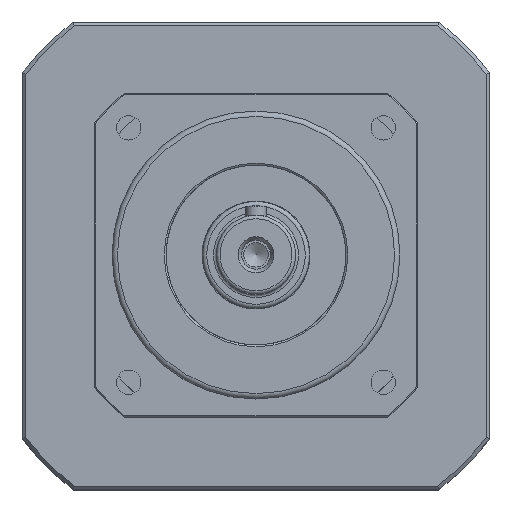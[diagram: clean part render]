
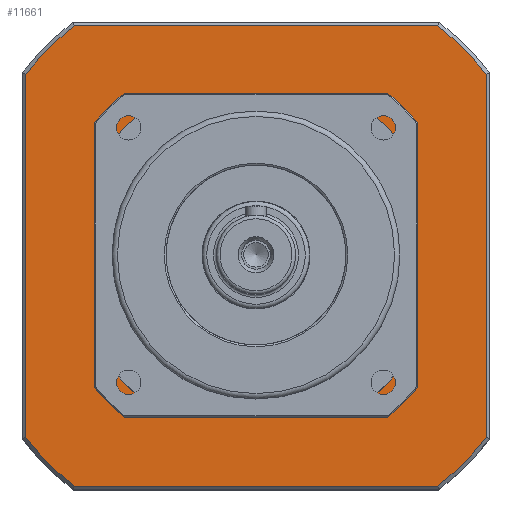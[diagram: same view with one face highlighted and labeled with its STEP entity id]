
A CAD part, top view. The second image highlights one B-rep face of the part: STEP entity #11661.
In plain terms, the highlighted planar face has unit normal (0, 0, 1).
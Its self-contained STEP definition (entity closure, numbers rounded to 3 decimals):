
#11516=CARTESIAN_POINT('',(0.,0.,-134.0));
#11517=DIRECTION('',(0.0,0.0,1.0));
#11518=DIRECTION('',(1.0,0.0,0.0));
#11519=AXIS2_PLACEMENT_3D('',#11516,#11517,#11518);
#11520=PLANE('',#11519);
#11521=CARTESIAN_POINT('',(50.46,-64.,-134.0));
#11522=VERTEX_POINT('',#11521);
#11523=CARTESIAN_POINT('',(64.,-50.46,-134.0));
#11524=VERTEX_POINT('',#11523);
#11525=CARTESIAN_POINT('',(0.,0.,-134.0));
#11526=DIRECTION('',(0.0,0.0,1.0));
#11527=DIRECTION('',(1.0,0.0,0.0));
#11528=AXIS2_PLACEMENT_3D('',#11525,#11526,#11527);
#11529=CIRCLE('',#11528,81.5);
#11530=EDGE_CURVE('',#11522,#11524,#11529,.T.);
#11531=ORIENTED_EDGE('',*,*,#11530,.T.);
#11532=CARTESIAN_POINT('',(64.,50.46,-134.0));
#11533=VERTEX_POINT('',#11532);
#11534=CARTESIAN_POINT('',(64.,-50.46,-134.0));
#11535=DIRECTION('',(0.0,1.0,0.0));
#11536=VECTOR('',#11535,100.921);
#11537=LINE('',#11534,#11536);
#11538=EDGE_CURVE('',#11524,#11533,#11537,.T.);
#11539=ORIENTED_EDGE('',*,*,#11538,.T.);
#11540=CARTESIAN_POINT('',(50.46,64.,-134.0));
#11541=VERTEX_POINT('',#11540);
#11542=CARTESIAN_POINT('',(0.,0.,-134.0));
#11543=DIRECTION('',(0.0,0.0,1.0));
#11544=DIRECTION('',(1.0,0.0,0.0));
#11545=AXIS2_PLACEMENT_3D('',#11542,#11543,#11544);
#11546=CIRCLE('',#11545,81.5);
#11547=EDGE_CURVE('',#11533,#11541,#11546,.T.);
#11548=ORIENTED_EDGE('',*,*,#11547,.T.);
#11549=CARTESIAN_POINT('',(-50.46,64.,-134.0));
#11550=VERTEX_POINT('',#11549);
#11551=CARTESIAN_POINT('',(50.46,64.,-134.0));
#11552=DIRECTION('',(-1.0,0.0,0.0));
#11553=VECTOR('',#11552,100.921);
#11554=LINE('',#11551,#11553);
#11555=EDGE_CURVE('',#11541,#11550,#11554,.T.);
#11556=ORIENTED_EDGE('',*,*,#11555,.T.);
#11557=CARTESIAN_POINT('',(-64.,50.46,-134.0));
#11558=VERTEX_POINT('',#11557);
#11559=CARTESIAN_POINT('',(0.,0.,-134.0));
#11560=DIRECTION('',(0.0,0.0,1.0));
#11561=DIRECTION('',(1.0,0.0,0.0));
#11562=AXIS2_PLACEMENT_3D('',#11559,#11560,#11561);
#11563=CIRCLE('',#11562,81.5);
#11564=EDGE_CURVE('',#11550,#11558,#11563,.T.);
#11565=ORIENTED_EDGE('',*,*,#11564,.T.);
#11566=CARTESIAN_POINT('',(-64.,-50.46,-134.0));
#11567=VERTEX_POINT('',#11566);
#11568=CARTESIAN_POINT('',(-64.,50.46,-134.0));
#11569=DIRECTION('',(0.0,-1.0,0.0));
#11570=VECTOR('',#11569,100.921);
#11571=LINE('',#11568,#11570);
#11572=EDGE_CURVE('',#11558,#11567,#11571,.T.);
#11573=ORIENTED_EDGE('',*,*,#11572,.T.);
#11574=CARTESIAN_POINT('',(-50.46,-64.,-134.0));
#11575=VERTEX_POINT('',#11574);
#11576=CARTESIAN_POINT('',(0.,0.,-134.0));
#11577=DIRECTION('',(0.0,0.0,1.0));
#11578=DIRECTION('',(1.0,0.0,0.0));
#11579=AXIS2_PLACEMENT_3D('',#11576,#11577,#11578);
#11580=CIRCLE('',#11579,81.5);
#11581=EDGE_CURVE('',#11567,#11575,#11580,.T.);
#11582=ORIENTED_EDGE('',*,*,#11581,.T.);
#11583=CARTESIAN_POINT('',(-50.46,-64.,-134.0));
#11584=DIRECTION('',(1.0,0.0,0.0));
#11585=VECTOR('',#11584,100.921);
#11586=LINE('',#11583,#11585);
#11587=EDGE_CURVE('',#11575,#11522,#11586,.T.);
#11588=ORIENTED_EDGE('',*,*,#11587,.T.);
#11589=EDGE_LOOP('',(#11531,#11539,#11548,#11556,#11565,#11573,#11582,#11588));
#11590=FACE_OUTER_BOUND('',#11589,.T.);
#11591=CARTESIAN_POINT('',(-45.,24.,-134.0));
#11592=VERTEX_POINT('',#11591);
#11593=CARTESIAN_POINT('',(-45.,-24.,-134.0));
#11594=VERTEX_POINT('',#11593);
#11595=CARTESIAN_POINT('',(-45.,24.,-134.0));
#11596=DIRECTION('',(0.0,-1.0,0.0));
#11597=VECTOR('',#11596,48.);
#11598=LINE('',#11595,#11597);
#11599=EDGE_CURVE('',#11592,#11594,#11598,.T.);
#11600=ORIENTED_EDGE('',*,*,#11599,.F.);
#11601=CARTESIAN_POINT('',(-24.,45.,-134.0));
#11602=VERTEX_POINT('',#11601);
#11603=CARTESIAN_POINT('',(0.,0.,-134.0));
#11604=DIRECTION('',(0.0,0.0,1.0));
#11605=DIRECTION('',(1.0,0.0,0.0));
#11606=AXIS2_PLACEMENT_3D('',#11603,#11604,#11605);
#11607=CIRCLE('',#11606,51.);
#11608=EDGE_CURVE('',#11602,#11592,#11607,.T.);
#11609=ORIENTED_EDGE('',*,*,#11608,.F.);
#11610=CARTESIAN_POINT('',(24.,45.,-134.0));
#11611=VERTEX_POINT('',#11610);
#11612=CARTESIAN_POINT('',(24.,45.,-134.0));
#11613=DIRECTION('',(-1.0,0.0,0.0));
#11614=VECTOR('',#11613,48.);
#11615=LINE('',#11612,#11614);
#11616=EDGE_CURVE('',#11611,#11602,#11615,.T.);
#11617=ORIENTED_EDGE('',*,*,#11616,.F.);
#11618=CARTESIAN_POINT('',(45.0,24.,-134.0));
#11619=VERTEX_POINT('',#11618);
#11620=CARTESIAN_POINT('',(0.,0.,-134.0));
#11621=DIRECTION('',(0.0,0.0,1.0));
#11622=DIRECTION('',(1.0,0.0,0.0));
#11623=AXIS2_PLACEMENT_3D('',#11620,#11621,#11622);
#11624=CIRCLE('',#11623,51.);
#11625=EDGE_CURVE('',#11619,#11611,#11624,.T.);
#11626=ORIENTED_EDGE('',*,*,#11625,.F.);
#11627=CARTESIAN_POINT('',(45.0,-24.,-134.0));
#11628=VERTEX_POINT('',#11627);
#11629=CARTESIAN_POINT('',(45.0,-24.,-134.0));
#11630=DIRECTION('',(0.0,1.0,0.0));
#11631=VECTOR('',#11630,48.);
#11632=LINE('',#11629,#11631);
#11633=EDGE_CURVE('',#11628,#11619,#11632,.T.);
#11634=ORIENTED_EDGE('',*,*,#11633,.F.);
#11635=CARTESIAN_POINT('',(24.,-45.,-134.0));
#11636=VERTEX_POINT('',#11635);
#11637=CARTESIAN_POINT('',(0.,0.,-134.0));
#11638=DIRECTION('',(0.0,0.0,1.0));
#11639=DIRECTION('',(1.0,0.0,0.0));
#11640=AXIS2_PLACEMENT_3D('',#11637,#11638,#11639);
#11641=CIRCLE('',#11640,51.);
#11642=EDGE_CURVE('',#11636,#11628,#11641,.T.);
#11643=ORIENTED_EDGE('',*,*,#11642,.F.);
#11644=CARTESIAN_POINT('',(-24.,-45.,-134.0));
#11645=VERTEX_POINT('',#11644);
#11646=CARTESIAN_POINT('',(-24.,-45.,-134.0));
#11647=DIRECTION('',(1.0,0.0,0.0));
#11648=VECTOR('',#11647,48.);
#11649=LINE('',#11646,#11648);
#11650=EDGE_CURVE('',#11645,#11636,#11649,.T.);
#11651=ORIENTED_EDGE('',*,*,#11650,.F.);
#11652=CARTESIAN_POINT('',(0.,0.,-134.0));
#11653=DIRECTION('',(0.0,0.0,1.0));
#11654=DIRECTION('',(1.0,0.0,0.0));
#11655=AXIS2_PLACEMENT_3D('',#11652,#11653,#11654);
#11656=CIRCLE('',#11655,51.);
#11657=EDGE_CURVE('',#11594,#11645,#11656,.T.);
#11658=ORIENTED_EDGE('',*,*,#11657,.F.);
#11659=EDGE_LOOP('',(#11600,#11609,#11617,#11626,#11634,#11643,#11651,#11658));
#11660=FACE_BOUND('',#11659,.T.);
#11661=ADVANCED_FACE('',(#11590,#11660),#11520,.T.);
